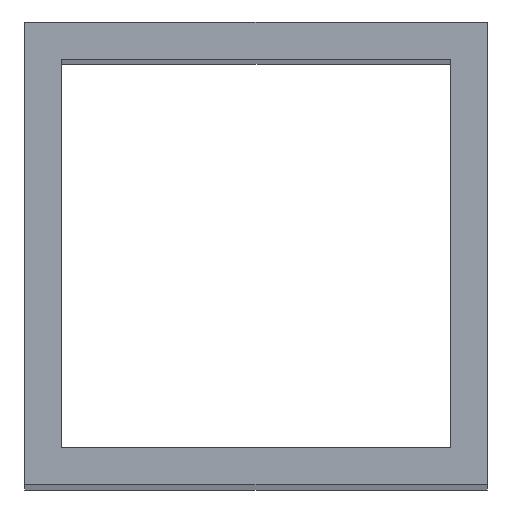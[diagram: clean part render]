
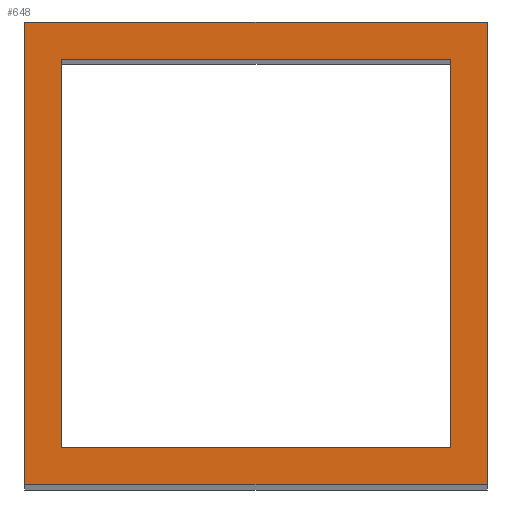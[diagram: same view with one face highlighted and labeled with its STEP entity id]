
A CAD part, top view. The second image highlights one B-rep face of the part: STEP entity #648.
In plain terms, the highlighted planar face has unit normal (0, 0, 1).
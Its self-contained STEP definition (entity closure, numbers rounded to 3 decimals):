
#24 = VERTEX_POINT('',#25);
#25 = CARTESIAN_POINT('',(-75.,-75.,1000.));
#32 = PLANE('',#33);
#33 = AXIS2_PLACEMENT_3D('',#34,#35,#36);
#34 = CARTESIAN_POINT('',(-75.,-75.,0.));
#35 = DIRECTION('',(0.,1.,0.));
#36 = DIRECTION('',(1.,0.,0.));
#44 = PLANE('',#45);
#45 = AXIS2_PLACEMENT_3D('',#46,#47,#48);
#46 = CARTESIAN_POINT('',(-75.,75.,0.));
#47 = DIRECTION('',(1.,0.,-0.));
#48 = DIRECTION('',(0.,-1.,0.));
#56 = EDGE_CURVE('',#24,#57,#59,.T.);
#57 = VERTEX_POINT('',#58);
#58 = CARTESIAN_POINT('',(75.,-75.,1000.));
#59 = SURFACE_CURVE('',#60,(#64,#71),.PCURVE_S1.);
#60 = LINE('',#61,#62);
#61 = CARTESIAN_POINT('',(-75.,-75.,1000.));
#62 = VECTOR('',#63,1.);
#63 = DIRECTION('',(1.,0.,0.));
#64 = PCURVE('',#32,#65);
#65 = DEFINITIONAL_REPRESENTATION('',(#66),#70);
#66 = LINE('',#67,#68);
#67 = CARTESIAN_POINT('',(0.,-1000.));
#68 = VECTOR('',#69,1.);
#69 = DIRECTION('',(1.,0.));
#70 = ( GEOMETRIC_REPRESENTATION_CONTEXT(2) 
PARAMETRIC_REPRESENTATION_CONTEXT() REPRESENTATION_CONTEXT('2D SPACE',''
  ) );
#71 = PCURVE('',#72,#77);
#72 = PLANE('',#73);
#73 = AXIS2_PLACEMENT_3D('',#74,#75,#76);
#74 = CARTESIAN_POINT('',(0.,0.,1000.));
#75 = DIRECTION('',(0.,0.,1.));
#76 = DIRECTION('',(1.,0.,-0.));
#77 = DEFINITIONAL_REPRESENTATION('',(#78),#82);
#78 = LINE('',#79,#80);
#79 = CARTESIAN_POINT('',(-75.,-75.));
#80 = VECTOR('',#81,1.);
#81 = DIRECTION('',(1.,0.));
#82 = ( GEOMETRIC_REPRESENTATION_CONTEXT(2) 
PARAMETRIC_REPRESENTATION_CONTEXT() REPRESENTATION_CONTEXT('2D SPACE',''
  ) );
#100 = PLANE('',#101);
#101 = AXIS2_PLACEMENT_3D('',#102,#103,#104);
#102 = CARTESIAN_POINT('',(75.,-75.,0.));
#103 = DIRECTION('',(-1.,0.,0.));
#104 = DIRECTION('',(0.,1.,0.));
#142 = EDGE_CURVE('',#57,#143,#145,.T.);
#143 = VERTEX_POINT('',#144);
#144 = CARTESIAN_POINT('',(75.,75.,1000.));
#145 = SURFACE_CURVE('',#146,(#150,#157),.PCURVE_S1.);
#146 = LINE('',#147,#148);
#147 = CARTESIAN_POINT('',(75.,-75.,1000.));
#148 = VECTOR('',#149,1.);
#149 = DIRECTION('',(0.,1.,0.));
#150 = PCURVE('',#100,#151);
#151 = DEFINITIONAL_REPRESENTATION('',(#152),#156);
#152 = LINE('',#153,#154);
#153 = CARTESIAN_POINT('',(0.,-1000.));
#154 = VECTOR('',#155,1.);
#155 = DIRECTION('',(1.,0.));
#156 = ( GEOMETRIC_REPRESENTATION_CONTEXT(2) 
PARAMETRIC_REPRESENTATION_CONTEXT() REPRESENTATION_CONTEXT('2D SPACE',''
  ) );
#157 = PCURVE('',#72,#158);
#158 = DEFINITIONAL_REPRESENTATION('',(#159),#163);
#159 = LINE('',#160,#161);
#160 = CARTESIAN_POINT('',(75.,-75.));
#161 = VECTOR('',#162,1.);
#162 = DIRECTION('',(0.,1.));
#163 = ( GEOMETRIC_REPRESENTATION_CONTEXT(2) 
PARAMETRIC_REPRESENTATION_CONTEXT() REPRESENTATION_CONTEXT('2D SPACE',''
  ) );
#181 = PLANE('',#182);
#182 = AXIS2_PLACEMENT_3D('',#183,#184,#185);
#183 = CARTESIAN_POINT('',(75.,75.,0.));
#184 = DIRECTION('',(0.,-1.,0.));
#185 = DIRECTION('',(-1.,0.,0.));
#218 = EDGE_CURVE('',#143,#219,#221,.T.);
#219 = VERTEX_POINT('',#220);
#220 = CARTESIAN_POINT('',(-75.,75.,1000.));
#221 = SURFACE_CURVE('',#222,(#226,#233),.PCURVE_S1.);
#222 = LINE('',#223,#224);
#223 = CARTESIAN_POINT('',(75.,75.,1000.));
#224 = VECTOR('',#225,1.);
#225 = DIRECTION('',(-1.,0.,0.));
#226 = PCURVE('',#181,#227);
#227 = DEFINITIONAL_REPRESENTATION('',(#228),#232);
#228 = LINE('',#229,#230);
#229 = CARTESIAN_POINT('',(0.,-1000.));
#230 = VECTOR('',#231,1.);
#231 = DIRECTION('',(1.,0.));
#232 = ( GEOMETRIC_REPRESENTATION_CONTEXT(2) 
PARAMETRIC_REPRESENTATION_CONTEXT() REPRESENTATION_CONTEXT('2D SPACE',''
  ) );
#233 = PCURVE('',#72,#234);
#234 = DEFINITIONAL_REPRESENTATION('',(#235),#239);
#235 = LINE('',#236,#237);
#236 = CARTESIAN_POINT('',(75.,75.));
#237 = VECTOR('',#238,1.);
#238 = DIRECTION('',(-1.,0.));
#239 = ( GEOMETRIC_REPRESENTATION_CONTEXT(2) 
PARAMETRIC_REPRESENTATION_CONTEXT() REPRESENTATION_CONTEXT('2D SPACE',''
  ) );
#289 = EDGE_CURVE('',#219,#24,#290,.T.);
#290 = SURFACE_CURVE('',#291,(#295,#302),.PCURVE_S1.);
#291 = LINE('',#292,#293);
#292 = CARTESIAN_POINT('',(-75.,75.,1000.));
#293 = VECTOR('',#294,1.);
#294 = DIRECTION('',(0.,-1.,0.));
#295 = PCURVE('',#44,#296);
#296 = DEFINITIONAL_REPRESENTATION('',(#297),#301);
#297 = LINE('',#298,#299);
#298 = CARTESIAN_POINT('',(0.,-1000.));
#299 = VECTOR('',#300,1.);
#300 = DIRECTION('',(1.,0.));
#301 = ( GEOMETRIC_REPRESENTATION_CONTEXT(2) 
PARAMETRIC_REPRESENTATION_CONTEXT() REPRESENTATION_CONTEXT('2D SPACE',''
  ) );
#302 = PCURVE('',#72,#303);
#303 = DEFINITIONAL_REPRESENTATION('',(#304),#308);
#304 = LINE('',#305,#306);
#305 = CARTESIAN_POINT('',(-75.,75.));
#306 = VECTOR('',#307,1.);
#307 = DIRECTION('',(0.,-1.));
#308 = ( GEOMETRIC_REPRESENTATION_CONTEXT(2) 
PARAMETRIC_REPRESENTATION_CONTEXT() REPRESENTATION_CONTEXT('2D SPACE',''
  ) );
#338 = VERTEX_POINT('',#339);
#339 = CARTESIAN_POINT('',(-63.,-63.,1000.));
#346 = PLANE('',#347);
#347 = AXIS2_PLACEMENT_3D('',#348,#349,#350);
#348 = CARTESIAN_POINT('',(-63.,-63.,0.));
#349 = DIRECTION('',(0.,1.,0.));
#350 = DIRECTION('',(1.,0.,0.));
#358 = PLANE('',#359);
#359 = AXIS2_PLACEMENT_3D('',#360,#361,#362);
#360 = CARTESIAN_POINT('',(-63.,63.,0.));
#361 = DIRECTION('',(1.,0.,-0.));
#362 = DIRECTION('',(0.,-1.,0.));
#370 = EDGE_CURVE('',#338,#371,#373,.T.);
#371 = VERTEX_POINT('',#372);
#372 = CARTESIAN_POINT('',(63.,-63.,1000.));
#373 = SURFACE_CURVE('',#374,(#378,#385),.PCURVE_S1.);
#374 = LINE('',#375,#376);
#375 = CARTESIAN_POINT('',(-63.,-63.,1000.));
#376 = VECTOR('',#377,1.);
#377 = DIRECTION('',(1.,0.,0.));
#378 = PCURVE('',#346,#379);
#379 = DEFINITIONAL_REPRESENTATION('',(#380),#384);
#380 = LINE('',#381,#382);
#381 = CARTESIAN_POINT('',(0.,-1000.));
#382 = VECTOR('',#383,1.);
#383 = DIRECTION('',(1.,0.));
#384 = ( GEOMETRIC_REPRESENTATION_CONTEXT(2) 
PARAMETRIC_REPRESENTATION_CONTEXT() REPRESENTATION_CONTEXT('2D SPACE',''
  ) );
#385 = PCURVE('',#72,#386);
#386 = DEFINITIONAL_REPRESENTATION('',(#387),#391);
#387 = LINE('',#388,#389);
#388 = CARTESIAN_POINT('',(-63.,-63.));
#389 = VECTOR('',#390,1.);
#390 = DIRECTION('',(1.,0.));
#391 = ( GEOMETRIC_REPRESENTATION_CONTEXT(2) 
PARAMETRIC_REPRESENTATION_CONTEXT() REPRESENTATION_CONTEXT('2D SPACE',''
  ) );
#409 = PLANE('',#410);
#410 = AXIS2_PLACEMENT_3D('',#411,#412,#413);
#411 = CARTESIAN_POINT('',(63.,-63.,0.));
#412 = DIRECTION('',(-1.,0.,0.));
#413 = DIRECTION('',(0.,1.,0.));
#446 = EDGE_CURVE('',#371,#447,#449,.T.);
#447 = VERTEX_POINT('',#448);
#448 = CARTESIAN_POINT('',(63.,63.,1000.));
#449 = SURFACE_CURVE('',#450,(#454,#461),.PCURVE_S1.);
#450 = LINE('',#451,#452);
#451 = CARTESIAN_POINT('',(63.,-63.,1000.));
#452 = VECTOR('',#453,1.);
#453 = DIRECTION('',(0.,1.,0.));
#454 = PCURVE('',#409,#455);
#455 = DEFINITIONAL_REPRESENTATION('',(#456),#460);
#456 = LINE('',#457,#458);
#457 = CARTESIAN_POINT('',(0.,-1000.));
#458 = VECTOR('',#459,1.);
#459 = DIRECTION('',(1.,0.));
#460 = ( GEOMETRIC_REPRESENTATION_CONTEXT(2) 
PARAMETRIC_REPRESENTATION_CONTEXT() REPRESENTATION_CONTEXT('2D SPACE',''
  ) );
#461 = PCURVE('',#72,#462);
#462 = DEFINITIONAL_REPRESENTATION('',(#463),#467);
#463 = LINE('',#464,#465);
#464 = CARTESIAN_POINT('',(63.,-63.));
#465 = VECTOR('',#466,1.);
#466 = DIRECTION('',(0.,1.));
#467 = ( GEOMETRIC_REPRESENTATION_CONTEXT(2) 
PARAMETRIC_REPRESENTATION_CONTEXT() REPRESENTATION_CONTEXT('2D SPACE',''
  ) );
#485 = PLANE('',#486);
#486 = AXIS2_PLACEMENT_3D('',#487,#488,#489);
#487 = CARTESIAN_POINT('',(63.,63.,0.));
#488 = DIRECTION('',(0.,-1.,0.));
#489 = DIRECTION('',(-1.,0.,0.));
#522 = EDGE_CURVE('',#447,#523,#525,.T.);
#523 = VERTEX_POINT('',#524);
#524 = CARTESIAN_POINT('',(-63.,63.,1000.));
#525 = SURFACE_CURVE('',#526,(#530,#537),.PCURVE_S1.);
#526 = LINE('',#527,#528);
#527 = CARTESIAN_POINT('',(63.,63.,1000.));
#528 = VECTOR('',#529,1.);
#529 = DIRECTION('',(-1.,0.,0.));
#530 = PCURVE('',#485,#531);
#531 = DEFINITIONAL_REPRESENTATION('',(#532),#536);
#532 = LINE('',#533,#534);
#533 = CARTESIAN_POINT('',(0.,-1000.));
#534 = VECTOR('',#535,1.);
#535 = DIRECTION('',(1.,0.));
#536 = ( GEOMETRIC_REPRESENTATION_CONTEXT(2) 
PARAMETRIC_REPRESENTATION_CONTEXT() REPRESENTATION_CONTEXT('2D SPACE',''
  ) );
#537 = PCURVE('',#72,#538);
#538 = DEFINITIONAL_REPRESENTATION('',(#539),#543);
#539 = LINE('',#540,#541);
#540 = CARTESIAN_POINT('',(63.,63.));
#541 = VECTOR('',#542,1.);
#542 = DIRECTION('',(-1.,0.));
#543 = ( GEOMETRIC_REPRESENTATION_CONTEXT(2) 
PARAMETRIC_REPRESENTATION_CONTEXT() REPRESENTATION_CONTEXT('2D SPACE',''
  ) );
#593 = EDGE_CURVE('',#523,#338,#594,.T.);
#594 = SURFACE_CURVE('',#595,(#599,#606),.PCURVE_S1.);
#595 = LINE('',#596,#597);
#596 = CARTESIAN_POINT('',(-63.,63.,1000.));
#597 = VECTOR('',#598,1.);
#598 = DIRECTION('',(0.,-1.,0.));
#599 = PCURVE('',#358,#600);
#600 = DEFINITIONAL_REPRESENTATION('',(#601),#605);
#601 = LINE('',#602,#603);
#602 = CARTESIAN_POINT('',(0.,-1000.));
#603 = VECTOR('',#604,1.);
#604 = DIRECTION('',(1.,0.));
#605 = ( GEOMETRIC_REPRESENTATION_CONTEXT(2) 
PARAMETRIC_REPRESENTATION_CONTEXT() REPRESENTATION_CONTEXT('2D SPACE',''
  ) );
#606 = PCURVE('',#72,#607);
#607 = DEFINITIONAL_REPRESENTATION('',(#608),#612);
#608 = LINE('',#609,#610);
#609 = CARTESIAN_POINT('',(-63.,63.));
#610 = VECTOR('',#611,1.);
#611 = DIRECTION('',(0.,-1.));
#612 = ( GEOMETRIC_REPRESENTATION_CONTEXT(2) 
PARAMETRIC_REPRESENTATION_CONTEXT() REPRESENTATION_CONTEXT('2D SPACE',''
  ) );
#648 = ADVANCED_FACE('',(#649,#655),#72,.T.);
#649 = FACE_BOUND('',#650,.T.);
#650 = EDGE_LOOP('',(#651,#652,#653,#654));
#651 = ORIENTED_EDGE('',*,*,#56,.T.);
#652 = ORIENTED_EDGE('',*,*,#142,.T.);
#653 = ORIENTED_EDGE('',*,*,#218,.T.);
#654 = ORIENTED_EDGE('',*,*,#289,.T.);
#655 = FACE_BOUND('',#656,.F.);
#656 = EDGE_LOOP('',(#657,#658,#659,#660));
#657 = ORIENTED_EDGE('',*,*,#370,.T.);
#658 = ORIENTED_EDGE('',*,*,#446,.T.);
#659 = ORIENTED_EDGE('',*,*,#522,.T.);
#660 = ORIENTED_EDGE('',*,*,#593,.T.);
